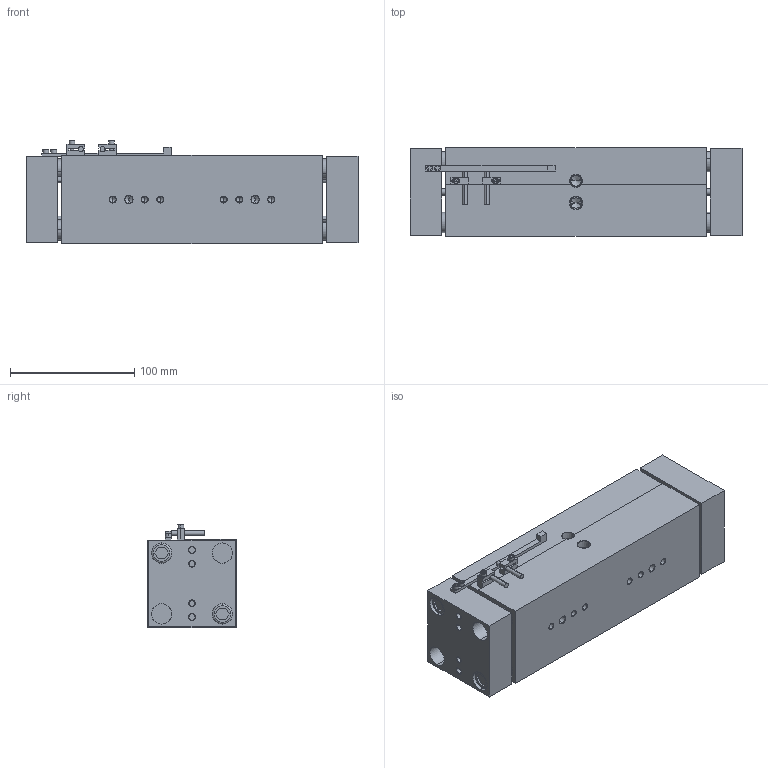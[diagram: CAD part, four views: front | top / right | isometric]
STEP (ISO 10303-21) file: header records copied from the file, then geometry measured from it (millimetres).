
FILE_DESCRIPTION (( 'STEP AP203' ), '1' );
FILE_NAME ('AGW-625-6 CLOSED in MM.STEP', '2014-11-25T15:56:53', ( 'setup' ), ( '' ), 'SwSTEP 2.0', 'SolidWorks 2013', '' );
FILE_SCHEMA (( 'CONFIG_CONTROL_DESIGN' ));
Length unit declared in the file: millimetre
Products named in the file (8): AGW-625-6 BODY; AGW-625-6 TOOL PLATE; AGW-625-6 SENSOR BLOCK; AGW-625-6 SENSOR; AGW-625-6 PROD; AGW-625-6 GUIDE ROD; AGW-625-6 SENSOR FLAG; AGW-625-6 CLOSED in MM
Assembly tree (16 placements, depth 2):
  AGW-625-6 CLOSED in MM
    AGW-625-6 BODY
    AGW-625-6 TOOL PLATE  x2
    AGW-625-6 SENSOR BLOCK  x2
    AGW-625-6 SENSOR  x2
    AGW-625-6 PROD  x4
    AGW-625-6 GUIDE ROD  x4
    AGW-625-6 SENSOR FLAG
Bounding box: 266.7 x 71.12 x 83.19 mm (x, y, z)
Volume: 1184277.9 mm3; surface area: 207726.1 mm2
Topology: 20 solids, 20 shells, 393 faces, 934 edges, 574 vertices
Faces by surface type: plane 161, cylinder 138, cone 82, torus 12
Entity records: 8620 total; most frequent: DIRECTION 1410, CARTESIAN_POINT 1276, ORIENTED_EDGE 1204, EDGE_CURVE 602, AXIS2_PLACEMENT_3D 528, VERTEX_POINT 380, VECTOR 354, LINE 354
